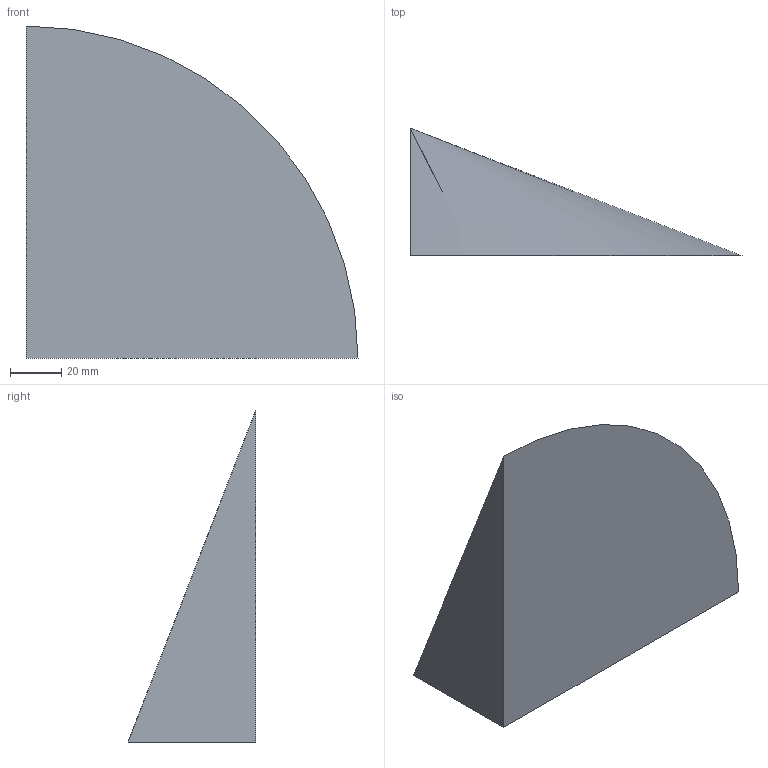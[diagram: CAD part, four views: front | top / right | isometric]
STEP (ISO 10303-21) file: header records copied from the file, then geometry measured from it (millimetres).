
FILE_DESCRIPTION(('CATIA V5 STEP Exchange'),'2;1');
FILE_NAME('C:\_Andres\UNIVERSIDAD\IQS\ASIGNATURAS\DAO\EXF\EXF-16172c\2inicio\Salazar_Martin_Ej07_v30.stp','2017-03-05T21:18:15+00:00',('none'),('none'),'CATIA Version 5-6 Release 2014 SP1 HF18','CATIA V5 STEP AP203','none');
FILE_SCHEMA(('CONFIG_CONTROL_DESIGN'));
Length unit declared in the file: millimetre
Products named in the file (1): Salazar_Martin_Ej07_v30
Bounding box: 130 x 50 x 130 mm (x, y, z)
Volume: 221220.5 mm3; surface area: 33994.4 mm2
Topology: 1 solids, 1 shells, 4 faces, 7 edges, 4 vertices
Faces by surface type: plane 3, cone 1
Entity records: 131 total; most frequent: CARTESIAN_POINT 15, DIRECTION 14, ORIENTED_EDGE 12, AXIS2_PLACEMENT_3D 6, EDGE_CURVE 6, VECTOR 5, LINE 5, ADVANCED_FACE 4
